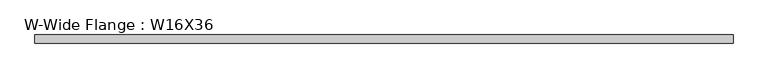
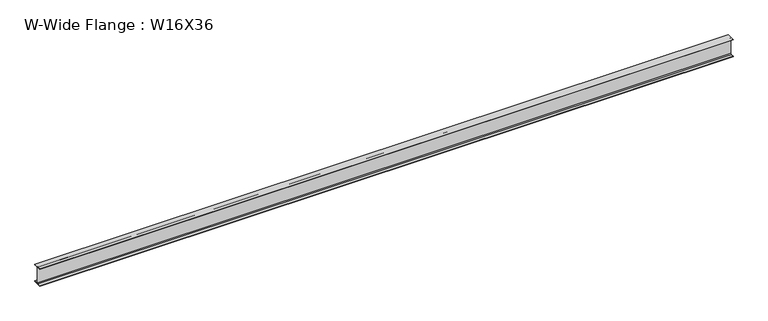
"""IFC4 building model written with IfcOpenShell, lengths in millimetres: beam geometry, W-Wide Flange : W16X36."""

from ifc_helpers import new_model, si_unit, point, frame, frame_2d, origin, place, context, project, spatial, polyline, circle_curve, trimmed, segment, composite_curve, outline, extrude, source, transform, mapped, element, save


def w_wide_flange_w16x36_e66db0b1(model_context):
    return source(origin(), model_context, "Body", "SweptSolid", [
        extrude(outline(composite_curve([segment(polyline([(88.773, -191.008), (88.773, -201.93), (-88.773, -201.93), (-88.773, -191.008), (-21.3995, -191.008)]), True, "CONTINUOUS"), segment(trimmed(circle_curve(frame_2d((-21.3995, -173.355)), 17.653), [point((-21.3995, -191.008))], [point((-3.7465, -173.355))], True, "CARTESIAN"), True, "CONTINUOUS"), segment(polyline([(-3.7465, -173.355), (-3.7465, 173.355)]), True, "CONTINUOUS"), segment(trimmed(circle_curve(frame_2d((-21.3995, 173.355)), 17.653), [point((-3.7465, 173.355))], [point((-21.3995, 191.008))], True, "CARTESIAN"), True, "CONTINUOUS"), segment(polyline([(-21.3995, 191.008), (-88.773, 191.008), (-88.773, 201.93), (88.773, 201.93), (88.773, 191.008), (21.3995, 191.008)]), True, "CONTINUOUS"), segment(trimmed(circle_curve(frame_2d((21.3995, 173.355)), 17.653), [point((21.3995, 191.008))], [point((3.7465, 173.355))], True, "CARTESIAN"), True, "CONTINUOUS"), segment(polyline([(3.7465, 173.355), (3.7465, -173.355)]), True, "CONTINUOUS"), segment(trimmed(circle_curve(frame_2d((21.3995, -173.355)), 17.653), [point((3.7465, -173.355))], [point((21.3995, -191.008))], True, "CARTESIAN"), True, "CONTINUOUS"), segment(polyline([(21.3995, -191.008), (88.773, -191.008)]), True, "CONTINUOUS")], self_intersect=False)), frame((-3718.3649156, 0.0, 0.0), z_axis=(1.0, 0.0, 0.0), x_axis=(0.0, 1.0, 0.0)), (0.0, 0.0, 1.0), 15303.627),
    ])


if __name__ == "__main__":
    model = new_model("IFC4")
    model_context = context("Model", 3, world=origin())
    ifc_project = project(units=[si_unit("LENGTHUNIT", "METRE", prefix="MILLI")], contexts=[model_context])
    site = spatial("IfcSite", under=ifc_project)
    building = spatial("IfcBuilding", under=site)
    placement = place(None, origin())
    w_wide_flange_w16x36_shape = w_wide_flange_w16x36_e66db0b1(model_context)
    element("IfcBeam", 1, ObjectType="W-Wide Flange : W16X36", at=placement, inside=building, context=model_context, shape_type="MappedRepresentation", body=[
        mapped(w_wide_flange_w16x36_shape, transform((0.0, 0.0, 0.0), x_axis=(1.0, 0.0, 0.0), y_axis=(0.0, 1.0, 0.0), z_axis=(0.0, 0.0, 1.0))),
    ])
    save(model, "model.ifc")
